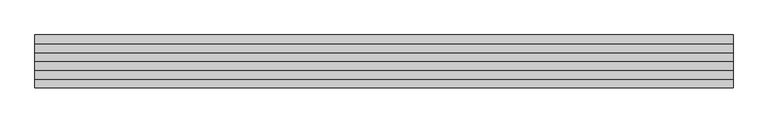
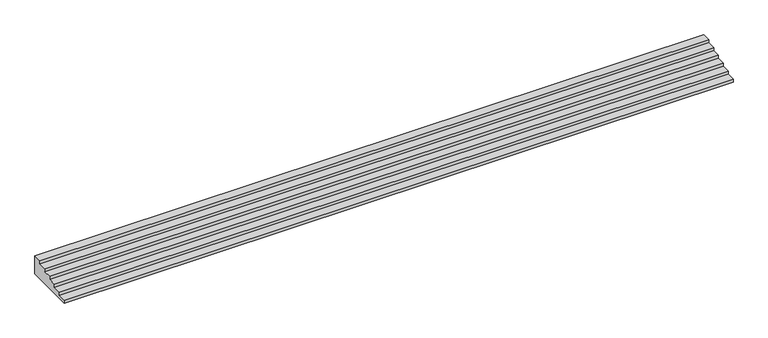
"""IFC4 building model written with IfcOpenShell, lengths in millimetres: proxy geometry, 室外台阶 : 室外台阶."""

from ifc_helpers import new_model, si_unit, frame, origin, place, context, project, spatial, polyline, outline, extrude, source, transform, mapped, element, save


def generic_models_83a5cd1b(model_context):
    return source(origin(), model_context, "Body", "SweptSolid", [
        extrude(outline(polyline([(-28988.2373497, -1000.0), (-28988.2373497, -850.0), (-28588.2373497, -850.0), (-28588.2373497, -700.0), (-28188.2373497, -700.0), (-28188.2373497, -550.0), (-27788.2373497, -550.0), (-27788.2373497, -400.0), (-27388.2373497, -400.0), (-27388.2373497, -250.0), (-26988.2373497, -250.0), (-26988.2373497, -100.0), (-26588.2373497, -100.0), (-26588.2373497, -1000.0), (-28988.2373497, -1000.0)])), frame((-23489.1214542, 0.0, 0.0), z_axis=(1.0, 0.0, 0.0), x_axis=(0.0, 1.0, 0.0)), (0.0, 0.0, 1.0), 31582.0769483),
    ])


if __name__ == "__main__":
    model = new_model("IFC4")
    model_context = context("Model", 3, world=origin())
    ifc_project = project(units=[si_unit("LENGTHUNIT", "METRE", prefix="MILLI")], contexts=[model_context])
    site = spatial("IfcSite", under=ifc_project)
    building = spatial("IfcBuilding", under=site)
    placement = place(None, origin())
    generic_models_shape = generic_models_83a5cd1b(model_context)
    element("IfcBuildingElementProxy", 1, Name="室外台阶 : 室外台阶", ObjectType="室外台阶 : 室外台阶", at=placement, inside=building, context=model_context, shape_type="MappedRepresentation", body=[
        mapped(generic_models_shape, transform((0.0, 0.0, 0.0), x_axis=(1.0, 0.0, 0.0), y_axis=(0.0, 1.0, 0.0), z_axis=(0.0, 0.0, 1.0))),
    ])
    save(model, "model.ifc")
